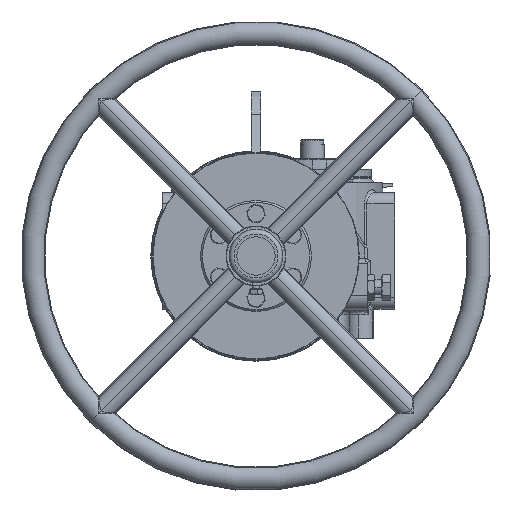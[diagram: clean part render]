
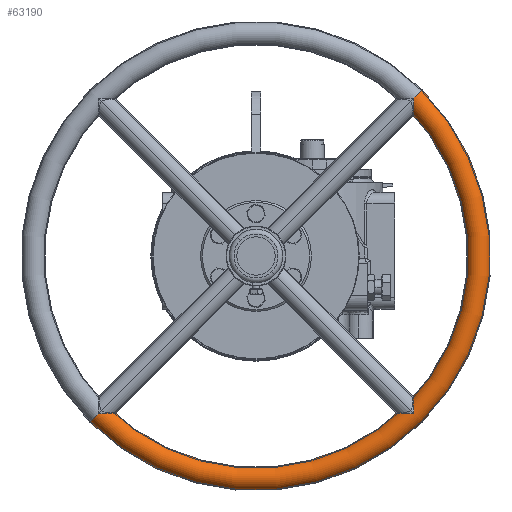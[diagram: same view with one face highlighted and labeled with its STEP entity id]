
A CAD part, left-side view. The second image highlights one B-rep face of the part: STEP entity #63190.
In plain terms, the highlighted toroidal (fillet/blend) face has major radius 237.5 mm and minor radius 12.5 mm.
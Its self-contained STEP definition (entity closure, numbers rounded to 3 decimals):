
#1725 = CARTESIAN_POINT ( 'NONE',  ( -920.7, -136.599, 216.599 ) ) ;
#1775 = CARTESIAN_POINT ( 'NONE',  ( -920.7, 199.277, -119.277 ) ) ;
#2884 = CIRCLE ( 'NONE', #103392, 12.5 ) ;
#5031 = AXIS2_PLACEMENT_3D ( 'NONE', #14251, #45721, #61482 ) ;
#5349 = EDGE_LOOP ( 'NONE', ( #92207, #53181, #27990, #58981 ) ) ;
#6507 = CARTESIAN_POINT ( 'NONE',  ( -920.7, 22.5, 57.5 ) ) ;
#6557 = DIRECTION ( 'NONE',  ( 0., 0.707, 0.707 ) ) ;
#7298 = CARTESIAN_POINT ( 'NONE',  ( -920.7, 190.438, -110.438 ) ) ;
#12329 = AXIS2_PLACEMENT_3D ( 'NONE', #6507, #79926, #32181 ) ;
#12717 = VERTEX_POINT ( 'NONE', #1775 ) ;
#14251 = CARTESIAN_POINT ( 'NONE',  ( -920.7, 22.5, 57.5 ) ) ;
#17803 = CARTESIAN_POINT ( 'NONE',  ( -920.7, 22.5, 57.5 ) ) ;
#19447 = EDGE_CURVE ( 'NONE', #37784, #33623, #95495, .T. ) ;
#19734 = EDGE_CURVE ( 'NONE', #37784, #61628, #78876, .T. ) ;
#21283 = CIRCLE ( 'NONE', #86627, 250. ) ;
#23634 = AXIS2_PLACEMENT_3D ( 'NONE', #34923, #6557, #45860 ) ;
#24129 = TOROIDAL_SURFACE ( 'NONE', #12329, 237.5, 12.5 ) ;
#27990 = ORIENTED_EDGE ( 'NONE', *, *, #19447, .T. ) ;
#31439 = DIRECTION ( 'NONE',  ( 0., -0.707, -0.707 ) ) ;
#32181 = DIRECTION ( 'NONE',  ( 0., -0.707, 0.707 ) ) ;
#33623 = VERTEX_POINT ( 'NONE', #52105 ) ;
#34923 = CARTESIAN_POINT ( 'NONE',  ( -920.7, -145.438, 225.438 ) ) ;
#37784 = VERTEX_POINT ( 'NONE', #1725 ) ;
#39284 = DIRECTION ( 'NONE',  ( 0., 0.707, -0.707 ) ) ;
#45721 = DIRECTION ( 'NONE',  ( 1., 0., 0. ) ) ;
#45860 = DIRECTION ( 'NONE',  ( 0., -0.707, 0.707 ) ) ;
#52105 = CARTESIAN_POINT ( 'NONE',  ( -920.7, 181.599, -101.599 ) ) ;
#53181 = ORIENTED_EDGE ( 'NONE', *, *, #19734, .F. ) ;
#55255 = FACE_OUTER_BOUND ( 'NONE', #5349, .T. ) ;
#58981 = ORIENTED_EDGE ( 'NONE', *, *, #70587, .T. ) ;
#59196 = DIRECTION ( 'NONE',  ( 0., 1., 0. ) ) ;
#61482 = DIRECTION ( 'NONE',  ( 0., 1., 0. ) ) ;
#61628 = VERTEX_POINT ( 'NONE', #64765 ) ;
#63190 = ADVANCED_FACE ( 'NONE', ( #55255 ), #24129, .T. ) ;
#64765 = CARTESIAN_POINT ( 'NONE',  ( -920.7, -154.277, 234.277 ) ) ;
#70587 = EDGE_CURVE ( 'NONE', #33623, #12717, #2884, .T. ) ;
#78876 = CIRCLE ( 'NONE', #23634, 12.5 ) ;
#79926 = DIRECTION ( 'NONE',  ( 1., 0., 0. ) ) ;
#86627 = AXIS2_PLACEMENT_3D ( 'NONE', #17803, #99607, #59196 ) ;
#92207 = ORIENTED_EDGE ( 'NONE', *, *, #101505, .F. ) ;
#95495 = CIRCLE ( 'NONE', #5031, 225. ) ;
#99607 = DIRECTION ( 'NONE',  ( 1., 0., 0. ) ) ;
#101505 = EDGE_CURVE ( 'NONE', #61628, #12717, #21283, .T. ) ;
#103392 = AXIS2_PLACEMENT_3D ( 'NONE', #7298, #31439, #39284 ) ;
